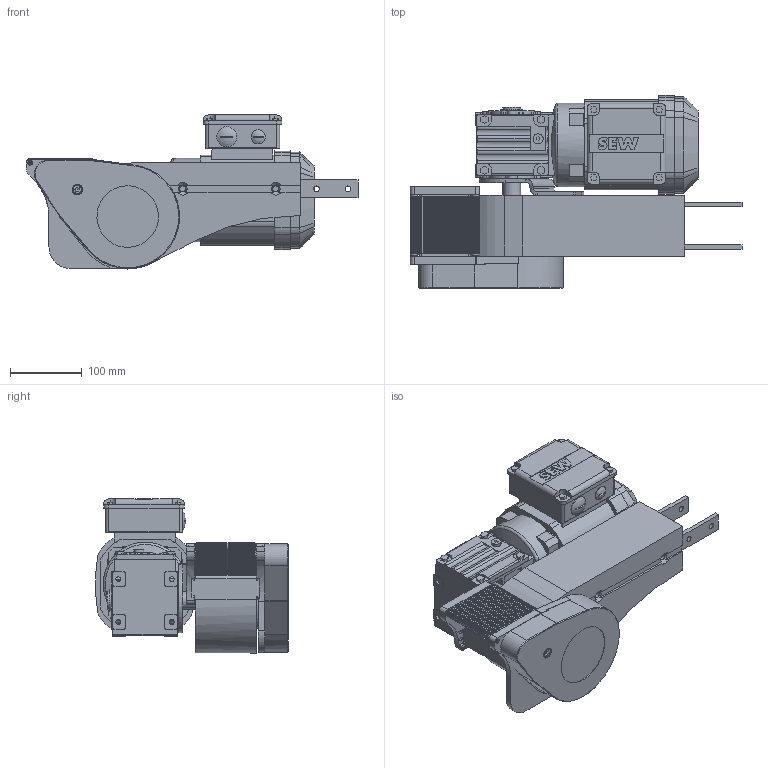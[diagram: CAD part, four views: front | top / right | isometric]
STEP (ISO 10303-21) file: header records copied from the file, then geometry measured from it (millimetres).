
FILE_DESCRIPTION(/* description */ (''),/* implementation_level */ '2;1');
FILE_NAME(/* name */ 'C:\CAD-MAG-2021\Technik\20_MAG-Konstruktion\01_FT - Fördertechnik\58000\57700-LD...stp',/* time_stamp */ '2024-09-25T13:21:16+02:00',/* author */ ('dwt0'),/* organization */ ('MAG'),/* preprocessor_version */ 'ST-DEVELOPER v18.1',/* originating_system */ 'Autodesk Inventor 2021',/* authorisation */ '');
FILE_SCHEMA (('CONFIG_CONTROL_DESIGN'));
Length unit declared in the file: millimetre
Products named in the file (1): 57700-LD
Bounding box: 464.11 x 269.64 x 215.3 mm (x, y, z)
Volume: 8194258.6 mm3; surface area: 674425 mm2
Topology: 13 solids, 68 shells, 2931 faces, 8072 edges, 5327 vertices
Faces by surface type: plane 1330, cylinder 1009, bspline 369, cone 134, torus 71, sphere 18
Full cylindrical faces by diameter (mm): 2 x2, 2.459 x4, 3 x4, 3.2 x4, 3.242 x6, 4 x16, 4.1 x2, 4.3 x1, 4.917 x4, 5 x8, 5.5 x4, 6 x23, 6.2 x1, 6.4 x1, 6.5 x8, 6.6 x8, 6.647 x1, 8 x14, 8.5 x6, 9 x7, 10 x10, 11 x5, 12 x12, 12.5 x1, 13 x6, 14 x3, 15 x6, 15.216 x4, 16 x1, 16.7 x2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
Entity records: 102518 total; most frequent: CARTESIAN_POINT 25311, ORIENTED_EDGE 16050, DIRECTION 14695, EDGE_CURVE 8025, VERTEX_POINT 5375, AXIS2_PLACEMENT_3D 5100, LINE 4495, VECTOR 4495
